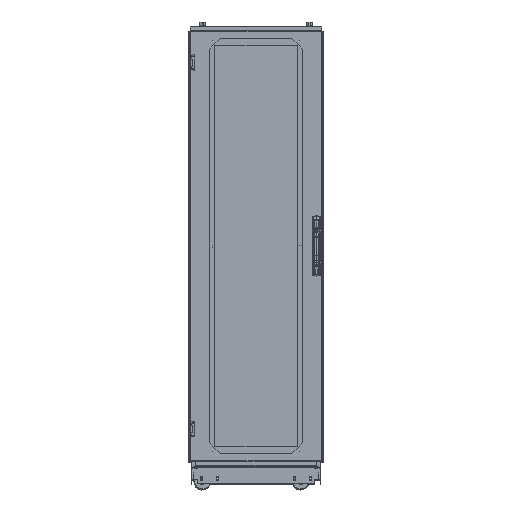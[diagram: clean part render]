
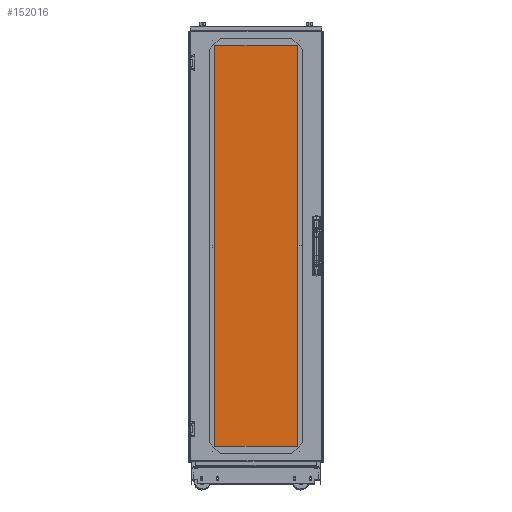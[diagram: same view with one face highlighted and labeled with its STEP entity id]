
A CAD part, top view. The second image highlights one B-rep face of the part: STEP entity #152016.
In plain terms, the highlighted free-form (B-spline) face has degree [1, 1] with [2, 2] control points.
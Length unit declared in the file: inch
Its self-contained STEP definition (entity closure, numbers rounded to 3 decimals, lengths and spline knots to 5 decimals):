
#151911=CARTESIAN_POINT('F2',(44.34304,-14.66209,
   0.125));
#151912=CARTESIAN_POINT('F2',(44.34304,2.65878,
   0.125));
#151913=CARTESIAN_POINT('F2',(-32.9601,
   -14.66209,0.125));
#151914=CARTESIAN_POINT('F2',(-32.9601,2.65878,
   0.125));
#151915=B_SPLINE_SURFACE_WITH_KNOTS('F2',1,1,((#151911,#151913),(
   #151912,#151914)),.PLANE_SURF.,.F.,.F.,.U.,(2,2),(2,2),(0.0,
   1.0),(0.0,4.46301),.UNSPECIFIED.);
#151916=CARTESIAN_POINT('V2',(40.57336,-14.24969,
   0.125));
#151917=VERTEX_POINT('V2',#151916);
#151918=CARTESIAN_POINT('V16',(42.5025,
   -12.32056,0.125));
#151919=VERTEX_POINT('V16',#151918);
#151920=CARTESIAN_POINT('E9',(40.57336,-14.24969,
   0.125));
#151921=CARTESIAN_POINT('E9',(42.5025,-12.32056,
   0.125));
#151922=QUASI_UNIFORM_CURVE('E9',1,(#151920,#151921),.POLYLINE_FORM.,
   .F.,.U.);
#151923=EDGE_CURVE('E9',#151917,#151919,#151922,.T.);
#151924=ORIENTED_EDGE('E9',*,*,#151923,.T.);
#151925=CARTESIAN_POINT('V14',(42.5025,0.31724,
   0.125));
#151926=VERTEX_POINT('V14',#151925);
#151927=CARTESIAN_POINT('E10',(42.5025,
   -12.32056,0.125));
#151928=CARTESIAN_POINT('E10',(42.5025,0.31724,
   0.125));
#151929=QUASI_UNIFORM_CURVE('E10',1,(#151927,#151928),
   .POLYLINE_FORM.,.F.,.U.);
#151930=EDGE_CURVE('E10',#151919,#151926,#151929,.T.);
#151931=ORIENTED_EDGE('E10',*,*,#151930,.T.);
#151932=CARTESIAN_POINT('V12',(40.57336,2.24637,
   0.125));
#151933=VERTEX_POINT('V12',#151932);
#151934=CARTESIAN_POINT('E11',(42.5025,0.31724,
   0.125));
#151935=CARTESIAN_POINT('E11',(40.57336,2.24637,
   0.125));
#151936=QUASI_UNIFORM_CURVE('E11',1,(#151934,#151935),
   .POLYLINE_FORM.,.F.,.U.);
#151937=EDGE_CURVE('E11',#151926,#151933,#151936,.T.);
#151938=ORIENTED_EDGE('E11',*,*,#151937,.T.);
#151939=CARTESIAN_POINT('V10',(-29.19042,2.24637,
   0.125));
#151940=VERTEX_POINT('V10',#151939);
#151941=CARTESIAN_POINT('E12',(40.57336,2.24637,
   0.125));
#151942=CARTESIAN_POINT('E12',(-29.19042,2.24637,
   0.125));
#151943=QUASI_UNIFORM_CURVE('E12',1,(#151941,#151942),
   .POLYLINE_FORM.,.F.,.U.);
#151944=EDGE_CURVE('E12',#151933,#151940,#151943,.T.);
#151945=ORIENTED_EDGE('E12',*,*,#151944,.T.);
#151946=CARTESIAN_POINT('V8',(-31.11955,0.31724,
   0.125));
#151947=VERTEX_POINT('V8',#151946);
#151948=CARTESIAN_POINT('E13',(-29.19042,2.24637,
   0.125));
#151949=CARTESIAN_POINT('E13',(-31.11955,0.31724,
   0.125));
#151950=QUASI_UNIFORM_CURVE('E13',1,(#151948,#151949),
   .POLYLINE_FORM.,.F.,.U.);
#151951=EDGE_CURVE('E13',#151940,#151947,#151950,.T.);
#151952=ORIENTED_EDGE('E13',*,*,#151951,.T.);
#151953=CARTESIAN_POINT('V6',(-31.11955,
   -12.32055,0.125));
#151954=VERTEX_POINT('V6',#151953);
#151955=CARTESIAN_POINT('E14',(-31.11955,0.31724,
   0.125));
#151956=CARTESIAN_POINT('E14',(-31.11955,
   -12.32055,0.125));
#151957=QUASI_UNIFORM_CURVE('E14',1,(#151955,#151956),
   .POLYLINE_FORM.,.F.,.U.);
#151958=EDGE_CURVE('E14',#151947,#151954,#151957,.T.);
#151959=ORIENTED_EDGE('E14',*,*,#151958,.T.);
#151960=CARTESIAN_POINT('V4',(-29.19042,
   -14.24969,0.125));
#151961=VERTEX_POINT('V4',#151960);
#151962=CARTESIAN_POINT('E15',(-31.11955,
   -12.32055,0.125));
#151963=CARTESIAN_POINT('E15',(-29.19042,
   -14.24969,0.125));
#151964=QUASI_UNIFORM_CURVE('E15',1,(#151962,#151963),
   .POLYLINE_FORM.,.F.,.U.);
#151965=EDGE_CURVE('E15',#151954,#151961,#151964,.T.);
#151966=ORIENTED_EDGE('E15',*,*,#151965,.T.);
#151967=CARTESIAN_POINT('E16',(-29.19042,
   -14.24969,0.125));
#151968=CARTESIAN_POINT('E16',(40.57336,
   -14.24969,0.125));
#151969=QUASI_UNIFORM_CURVE('E16',1,(#151967,#151968),
   .POLYLINE_FORM.,.F.,.U.);
#151970=EDGE_CURVE('E16',#151961,#151917,#151969,.T.);
#151971=ORIENTED_EDGE('E16',*,*,#151970,.T.);
#151972=EDGE_LOOP('F2',(#151924,#151931,#151938,#151945,#151952,
   #151959,#151966,#151971));
#151973=FACE_OUTER_BOUND('F2',#151972,.T.);
#151974=CARTESIAN_POINT('V20',(5.69147,-13.98419,
   0.125));
#151975=VERTEX_POINT('V20',#151974);
#151976=CARTESIAN_POINT('E29',(5.69147,-13.98419,
   0.125));
#151977=CARTESIAN_POINT('E29',(5.31259,-13.98419,
   0.125));
#151978=CARTESIAN_POINT('E29',(5.50203,-13.65606,
   0.125));
#151979=CARTESIAN_POINT('E29',(5.69147,-13.32794,
   0.125));
#151980=CARTESIAN_POINT('E29',(5.88092,-13.65606,
   0.125));
#151981=CARTESIAN_POINT('E29',(6.07036,-13.98419,
   0.125));
#151982=CARTESIAN_POINT('E29',(5.69147,-13.98419,
   0.125));
#151990=(BOUNDED_CURVE()B_SPLINE_CURVE(2,(#151976,#151977,#151978,
   #151979,#151980,#151981,#151982),.CIRCULAR_ARC.,.T.,.U.)
   B_SPLINE_CURVE_WITH_KNOTS((3,2,2,3),(0.0,0.33333,
   0.66667,1.0),.UNSPECIFIED.)CURVE()
   GEOMETRIC_REPRESENTATION_ITEM()RATIONAL_B_SPLINE_CURVE((1.0,
   0.5,1.0,0.5,1.0,0.5,1.0)
   )REPRESENTATION_ITEM('E29'));
#151991=EDGE_CURVE('E29',#151975,#151975,#151990,.T.);
#151992=ORIENTED_EDGE('E29',*,*,#151991,.T.);
#151993=EDGE_LOOP('F2',(#151992));
#151994=FACE_BOUND('F2',#151993,.T.);
#151995=CARTESIAN_POINT('V18',(5.47272,1.76212,
   0.125));
#151996=VERTEX_POINT('V18',#151995);
#151997=CARTESIAN_POINT('E26',(5.47272,1.76212,
   0.125));
#151998=CARTESIAN_POINT('E26',(5.47272,2.14101,
   0.125));
#151999=CARTESIAN_POINT('E26',(5.80085,1.95157,
   0.125));
#152000=CARTESIAN_POINT('E26',(6.12897,1.76212,
   0.125));
#152001=CARTESIAN_POINT('E26',(5.80085,1.57268,
   0.125));
#152002=CARTESIAN_POINT('E26',(5.47272,1.38324,
   0.125));
#152003=CARTESIAN_POINT('E26',(5.47272,1.76212,
   0.125));
#152011=(BOUNDED_CURVE()B_SPLINE_CURVE(2,(#151997,#151998,#151999,
   #152000,#152001,#152002,#152003),.CIRCULAR_ARC.,.T.,.U.)
   B_SPLINE_CURVE_WITH_KNOTS((3,2,2,3),(0.0,0.33333,
   0.66667,1.0),.UNSPECIFIED.)CURVE()
   GEOMETRIC_REPRESENTATION_ITEM()RATIONAL_B_SPLINE_CURVE((1.0,
   0.5,1.0,0.5,1.0,0.5,1.0)
   )REPRESENTATION_ITEM('E26'));
#152012=EDGE_CURVE('E26',#151996,#151996,#152011,.T.);
#152013=ORIENTED_EDGE('E26',*,*,#152012,.T.);
#152014=EDGE_LOOP('F2',(#152013));
#152015=FACE_BOUND('F2',#152014,.T.);
#152016=ADVANCED_FACE('F2',(#151973,#151994,#152015),#151915,.T.);
